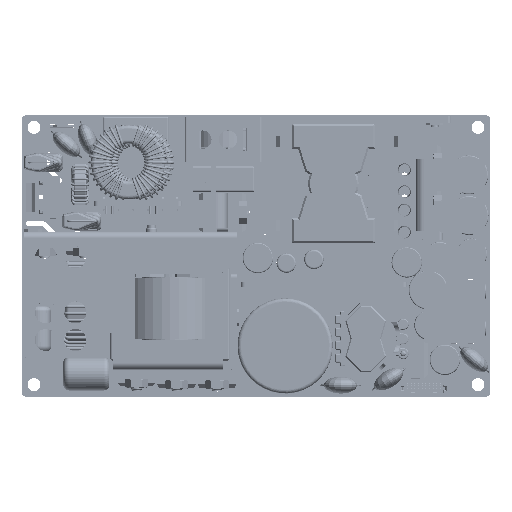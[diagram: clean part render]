
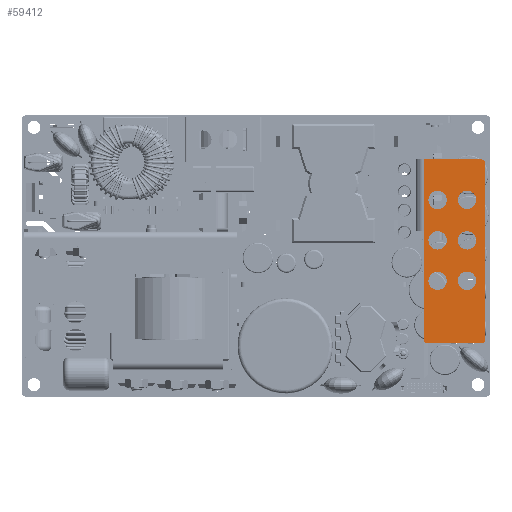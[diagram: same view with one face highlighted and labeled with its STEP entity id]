
A CAD part, top view. The second image highlights one B-rep face of the part: STEP entity #59412.
In plain terms, the highlighted planar face has unit normal (0, 0, 1) as drawn and (0, -1, 0) by its records, which use the part's own axes.
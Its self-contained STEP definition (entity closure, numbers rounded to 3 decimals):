
#55487=DIRECTION('',(-1.,0.,0.));
#55488=VECTOR('',#55487,19.55);
#55489=CARTESIAN_POINT('',(21.75,-20.3,-2.2));
#55490=LINE('',#55489,#55488);
#56603=CARTESIAN_POINT('',(10.75,-20.3,-14.));
#56604=DIRECTION('',(0.,-1.,0.));
#56605=DIRECTION('',(1.,0.,0.));
#56606=AXIS2_PLACEMENT_3D('',#56603,#56604,#56605);
#56611=CARTESIAN_POINT('',(10.75,-20.3,-14.));
#56612=DIRECTION('',(0.,-1.,0.));
#56613=DIRECTION('',(-1.,0.,0.));
#56614=AXIS2_PLACEMENT_3D('',#56611,#56612,#56613);
#56619=CARTESIAN_POINT('',(10.75,-20.3,-6.));
#56620=DIRECTION('',(0.,-1.,0.));
#56621=DIRECTION('',(1.,0.,0.));
#56622=AXIS2_PLACEMENT_3D('',#56619,#56620,#56621);
#56627=CARTESIAN_POINT('',(10.75,-20.3,-6.));
#56628=DIRECTION('',(0.,-1.,0.));
#56629=DIRECTION('',(-1.,0.,0.));
#56630=AXIS2_PLACEMENT_3D('',#56627,#56628,#56629);
#56635=CARTESIAN_POINT('',(-0.25,-20.3,-6.));
#56636=DIRECTION('',(0.,-1.,0.));
#56637=DIRECTION('',(1.,0.,0.));
#56638=AXIS2_PLACEMENT_3D('',#56635,#56636,#56637);
#56643=CARTESIAN_POINT('',(-0.25,-20.3,-6.));
#56644=DIRECTION('',(0.,-1.,0.));
#56645=DIRECTION('',(-1.,0.,0.));
#56646=AXIS2_PLACEMENT_3D('',#56643,#56644,#56645);
#56651=CARTESIAN_POINT('',(-11.25,-20.3,-6.));
#56652=DIRECTION('',(0.,-1.,0.));
#56653=DIRECTION('',(1.,0.,0.));
#56654=AXIS2_PLACEMENT_3D('',#56651,#56652,#56653);
#56659=CARTESIAN_POINT('',(-11.25,-20.3,-6.));
#56660=DIRECTION('',(0.,-1.,0.));
#56661=DIRECTION('',(-1.,0.,0.));
#56662=AXIS2_PLACEMENT_3D('',#56659,#56660,#56661);
#56667=CARTESIAN_POINT('',(-11.25,-20.3,-14.));
#56668=DIRECTION('',(0.,-1.,0.));
#56669=DIRECTION('',(1.,0.,0.));
#56670=AXIS2_PLACEMENT_3D('',#56667,#56668,#56669);
#56675=CARTESIAN_POINT('',(-11.25,-20.3,-14.));
#56676=DIRECTION('',(0.,-1.,0.));
#56677=DIRECTION('',(-1.,0.,0.));
#56678=AXIS2_PLACEMENT_3D('',#56675,#56676,#56677);
#56683=CARTESIAN_POINT('',(-0.25,-20.3,-14.));
#56684=DIRECTION('',(0.,-1.,0.));
#56685=DIRECTION('',(1.,0.,0.));
#56686=AXIS2_PLACEMENT_3D('',#56683,#56684,#56685);
#56691=CARTESIAN_POINT('',(-0.25,-20.3,-14.));
#56692=DIRECTION('',(0.,-1.,0.));
#56693=DIRECTION('',(-1.,0.,0.));
#56694=AXIS2_PLACEMENT_3D('',#56691,#56692,#56693);
#56699=CARTESIAN_POINT('',(-27.25,-20.3,-3.2));
#56700=DIRECTION('',(0.,-1.,0.));
#56701=DIRECTION('',(0.,0.,1.));
#56702=AXIS2_PLACEMENT_3D('',#56699,#56700,#56701);
#56707=DIRECTION('',(-1.,0.,0.));
#56708=VECTOR('',#56707,29.45);
#56709=CARTESIAN_POINT('',(2.2,-20.3,-2.2));
#56710=LINE('',#56709,#56708);
#56714=DIRECTION('',(0.,0.,-1.));
#56715=VECTOR('',#56714,15.8);
#56716=CARTESIAN_POINT('',(21.75,-20.3,-2.2));
#56717=LINE('',#56716,#56715);
#56721=CARTESIAN_POINT('',(20.75,-20.3,-18.));
#56722=DIRECTION('',(0.,-1.,0.));
#56723=DIRECTION('',(0.,0.,-1.));
#56724=AXIS2_PLACEMENT_3D('',#56721,#56722,#56723);
#56729=CARTESIAN_POINT('',(-27.25,-20.3,-18.));
#56730=DIRECTION('',(0.,-1.,0.));
#56731=DIRECTION('',(-1.,0.,0.));
#56732=AXIS2_PLACEMENT_3D('',#56729,#56730,#56731);
#56737=DIRECTION('',(0.,0.,-1.));
#56738=VECTOR('',#56737,14.8);
#56739=CARTESIAN_POINT('',(-28.25,-20.3,-3.2));
#56740=LINE('',#56739,#56738);
#56842=DIRECTION('',(1.,0.,0.));
#56843=VECTOR('',#56842,48.);
#56844=CARTESIAN_POINT('',(-27.25,-20.3,-19.));
#56845=LINE('',#56844,#56843);
#57415=CARTESIAN_POINT('',(21.75,-20.3,-2.2));
#57416=VERTEX_POINT('',#57415);
#57417=CARTESIAN_POINT('',(2.2,-20.3,-2.2));
#57418=VERTEX_POINT('',#57417);
#57423=CARTESIAN_POINT('',(13.25,-20.3,-14.));
#57424=CARTESIAN_POINT('',(8.25,-20.3,-14.));
#57425=VERTEX_POINT('',#57423);
#57426=VERTEX_POINT('',#57424);
#57427=CARTESIAN_POINT('',(13.25,-20.3,-6.));
#57428=CARTESIAN_POINT('',(8.25,-20.3,-6.));
#57429=VERTEX_POINT('',#57427);
#57430=VERTEX_POINT('',#57428);
#57431=CARTESIAN_POINT('',(2.25,-20.3,-6.));
#57432=CARTESIAN_POINT('',(-2.75,-20.3,-6.));
#57433=VERTEX_POINT('',#57431);
#57434=VERTEX_POINT('',#57432);
#57435=CARTESIAN_POINT('',(-8.75,-20.3,-6.));
#57436=CARTESIAN_POINT('',(-13.75,-20.3,-6.));
#57437=VERTEX_POINT('',#57435);
#57438=VERTEX_POINT('',#57436);
#57439=CARTESIAN_POINT('',(-8.75,-20.3,-14.));
#57440=CARTESIAN_POINT('',(-13.75,-20.3,-14.));
#57441=VERTEX_POINT('',#57439);
#57442=VERTEX_POINT('',#57440);
#57443=CARTESIAN_POINT('',(2.25,-20.3,-14.));
#57444=CARTESIAN_POINT('',(-2.75,-20.3,-14.));
#57445=VERTEX_POINT('',#57443);
#57446=VERTEX_POINT('',#57444);
#57535=CARTESIAN_POINT('',(-27.25,-20.3,-2.2));
#57536=CARTESIAN_POINT('',(-28.25,-20.3,-3.2));
#57537=VERTEX_POINT('',#57535);
#57538=VERTEX_POINT('',#57536);
#57543=CARTESIAN_POINT('',(-28.25,-20.3,-18.));
#57544=CARTESIAN_POINT('',(-27.25,-20.3,-19.));
#57545=VERTEX_POINT('',#57543);
#57546=VERTEX_POINT('',#57544);
#57551=CARTESIAN_POINT('',(20.75,-20.3,-19.));
#57552=CARTESIAN_POINT('',(21.75,-20.3,-18.));
#57553=VERTEX_POINT('',#57551);
#57554=VERTEX_POINT('',#57552);
#59355=CARTESIAN_POINT('',(2.2,-20.3,0.));
#59356=DIRECTION('',(0.,-1.,0.));
#59357=DIRECTION('',(-1.,0.,0.));
#59358=AXIS2_PLACEMENT_3D('',#59355,#59356,#59357);
#59359=PLANE('',#59358);
#59361=ORIENTED_EDGE('',*,*,#59360,.F.);
#59363=ORIENTED_EDGE('',*,*,#59362,.F.);
#59364=ORIENTED_EDGE('',*,*,#57932,.F.);
#59366=ORIENTED_EDGE('',*,*,#59365,.T.);
#59368=ORIENTED_EDGE('',*,*,#59367,.F.);
#59370=ORIENTED_EDGE('',*,*,#59369,.F.);
#59372=ORIENTED_EDGE('',*,*,#59371,.F.);
#59374=ORIENTED_EDGE('',*,*,#59373,.F.);
#59375=EDGE_LOOP('',(#59361,#59363,#59364,#59366,#59368,#59370,#59372,#59374));
#59376=FACE_OUTER_BOUND('',#59375,.F.);
#59378=ORIENTED_EDGE('',*,*,#59377,.T.);
#59380=ORIENTED_EDGE('',*,*,#59379,.T.);
#59381=EDGE_LOOP('',(#59378,#59380));
#59382=FACE_BOUND('',#59381,.F.);
#59384=ORIENTED_EDGE('',*,*,#59383,.T.);
#59386=ORIENTED_EDGE('',*,*,#59385,.T.);
#59387=EDGE_LOOP('',(#59384,#59386));
#59388=FACE_BOUND('',#59387,.F.);
#59390=ORIENTED_EDGE('',*,*,#59389,.T.);
#59392=ORIENTED_EDGE('',*,*,#59391,.T.);
#59393=EDGE_LOOP('',(#59390,#59392));
#59394=FACE_BOUND('',#59393,.F.);
#59396=ORIENTED_EDGE('',*,*,#59395,.T.);
#59398=ORIENTED_EDGE('',*,*,#59397,.T.);
#59399=EDGE_LOOP('',(#59396,#59398));
#59400=FACE_BOUND('',#59399,.F.);
#59401=ORIENTED_EDGE('',*,*,#59345,.T.);
#59403=ORIENTED_EDGE('',*,*,#59402,.T.);
#59404=EDGE_LOOP('',(#59401,#59403));
#59405=FACE_BOUND('',#59404,.F.);
#59407=ORIENTED_EDGE('',*,*,#59406,.T.);
#59409=ORIENTED_EDGE('',*,*,#59408,.T.);
#59410=EDGE_LOOP('',(#59407,#59409));
#59411=FACE_BOUND('',#59410,.F.);
#59412=ADVANCED_FACE('',(#59376,#59382,#59388,#59394,#59400,#59405,#59411),
#59359,.T.);
#56607=CIRCLE('',#56606,2.5);
#56615=CIRCLE('',#56614,2.5);
#56623=CIRCLE('',#56622,2.5);
#56631=CIRCLE('',#56630,2.5);
#56639=CIRCLE('',#56638,2.5);
#56647=CIRCLE('',#56646,2.5);
#56655=CIRCLE('',#56654,2.5);
#56663=CIRCLE('',#56662,2.5);
#56671=CIRCLE('',#56670,2.5);
#56679=CIRCLE('',#56678,2.5);
#56687=CIRCLE('',#56686,2.5);
#56695=CIRCLE('',#56694,2.5);
#56703=CIRCLE('',#56702,1.);
#56725=CIRCLE('',#56724,1.);
#56733=CIRCLE('',#56732,1.);
#57932=EDGE_CURVE('',#57416,#57418,#55490,.T.);
#59345=EDGE_CURVE('',#57445,#57446,#56687,.T.);
#59360=EDGE_CURVE('',#57537,#57538,#56703,.T.);
#59362=EDGE_CURVE('',#57418,#57537,#56710,.T.);
#59365=EDGE_CURVE('',#57416,#57554,#56717,.T.);
#59367=EDGE_CURVE('',#57553,#57554,#56725,.T.);
#59369=EDGE_CURVE('',#57546,#57553,#56845,.T.);
#59371=EDGE_CURVE('',#57545,#57546,#56733,.T.);
#59373=EDGE_CURVE('',#57538,#57545,#56740,.T.);
#59377=EDGE_CURVE('',#57429,#57430,#56623,.T.);
#59379=EDGE_CURVE('',#57430,#57429,#56631,.T.);
#59383=EDGE_CURVE('',#57433,#57434,#56639,.T.);
#59385=EDGE_CURVE('',#57434,#57433,#56647,.T.);
#59389=EDGE_CURVE('',#57437,#57438,#56655,.T.);
#59391=EDGE_CURVE('',#57438,#57437,#56663,.T.);
#59395=EDGE_CURVE('',#57441,#57442,#56671,.T.);
#59397=EDGE_CURVE('',#57442,#57441,#56679,.T.);
#59402=EDGE_CURVE('',#57446,#57445,#56695,.T.);
#59406=EDGE_CURVE('',#57425,#57426,#56607,.T.);
#59408=EDGE_CURVE('',#57426,#57425,#56615,.T.);
